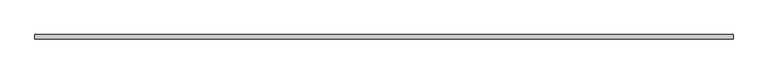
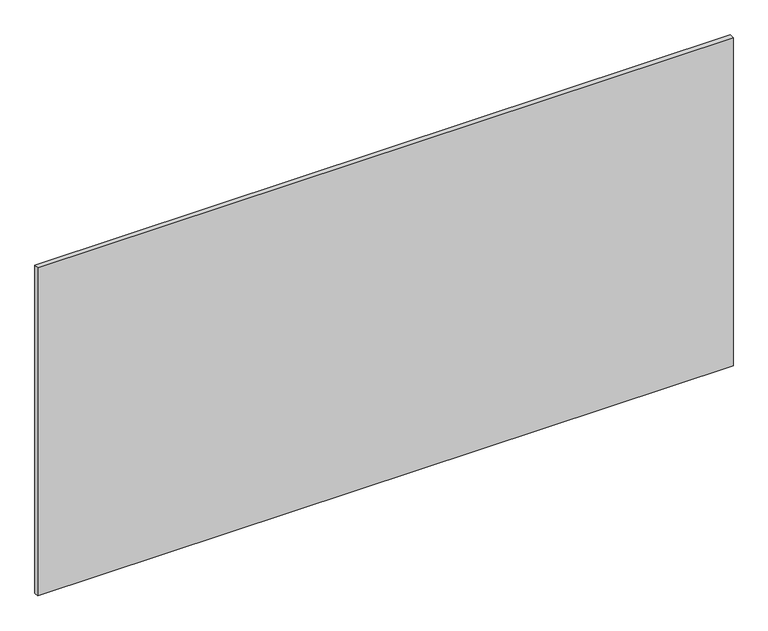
"""IFC4 building model written with IfcOpenShell, lengths in millimetres: proxy geometry, 38 Series Cedar Texture Soffit - Cut-To-Width (Strand) - 23.94 : 38 Series Cedar Texture Soffit – Cut-To-Width (Strand) - 23.94."""

from ifc_helpers import new_model, si_unit, frame, origin, place, context, project, spatial, polyline, outline, extrude, source, transform, mapped, element, save


def generic_models_447ac8c6(model_context):
    return source(origin(), model_context, "Body", "SweptSolid", [
        extrude(outline(polyline([(1219.2, -8.001), (0.0, -8.001), (0.0, 0.0), (1219.2, 0.0), (1219.2, -8.001)])), frame((0.0, 0.0, -608.076), z_axis=(0.0, 0.0, 1.0), x_axis=(1.0, 0.0, 0.0)), (0.0, 0.0, 1.0), 608.076),
    ])


if __name__ == "__main__":
    model = new_model("IFC4")
    model_context = context("Model", 3, world=origin())
    ifc_project = project(units=[si_unit("LENGTHUNIT", "METRE", prefix="MILLI")], contexts=[model_context])
    site = spatial("IfcSite", under=ifc_project)
    building = spatial("IfcBuilding", under=site)
    placement = place(None, origin())
    generic_models_shape = generic_models_447ac8c6(model_context)
    element("IfcBuildingElementProxy", 1, Name="38 Series Cedar Texture Soffit - Cut-To-Width (Strand) - 23.94 : 38 Series Cedar Texture Soffit – Cut-To-Width (Strand) - 23.94", ObjectType="38 Series Cedar Texture Soffit - Cut-To-Width (Strand) - 23.94 : 38 Series Cedar Texture Soffit – Cut-To-Width (Strand) - 23.94", at=placement, inside=building, context=model_context, shape_type="MappedRepresentation", body=[
        mapped(generic_models_shape, transform((0.0, 0.0, 0.0), x_axis=(1.0, 0.0, 0.0), y_axis=(0.0, 1.0, 0.0), z_axis=(0.0, 0.0, 1.0))),
    ])
    save(model, "model.ifc")
